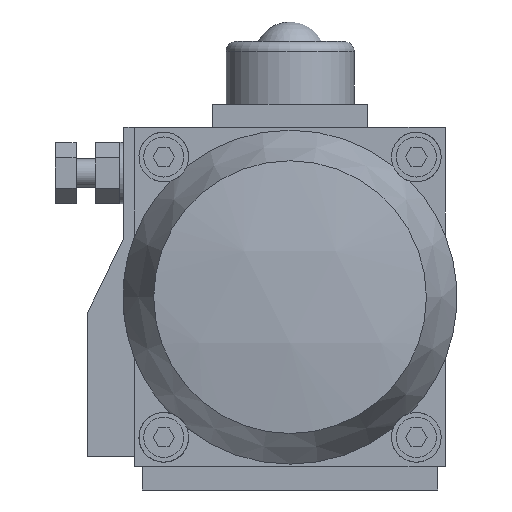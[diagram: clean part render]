
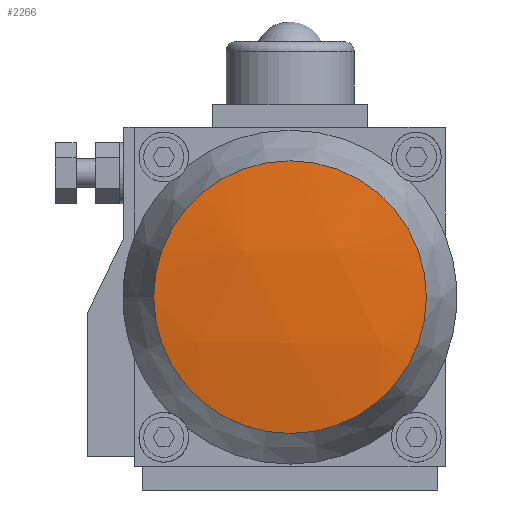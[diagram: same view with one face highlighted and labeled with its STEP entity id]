
A CAD part, front view. The second image highlights one B-rep face of the part: STEP entity #2266.
In plain terms, the highlighted spherical face has radius 250.929 mm.
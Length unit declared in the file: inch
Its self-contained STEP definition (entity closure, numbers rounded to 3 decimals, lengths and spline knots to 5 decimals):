
#2250=CARTESIAN_POINT('',(1.86,0.92908,2.425));
#2251=DIRECTION('',(0.0,0.0,1.0));
#2252=DIRECTION('',(1.0,0.0,0.0));
#2253=AXIS2_PLACEMENT_3D('',#2250,#2251,#2252);
#2254=SPHERICAL_SURFACE('',#2253,9.87908);
#2255=CARTESIAN_POINT('',(0.145,-8.8,2.425));
#2256=VERTEX_POINT('',#2255);
#2257=CARTESIAN_POINT('',(1.86,-8.8,2.425));
#2258=DIRECTION('',(0.,1.0,0.0));
#2259=DIRECTION('',(-1.0,0.,0.0));
#2260=AXIS2_PLACEMENT_3D('',#2257,#2258,#2259);
#2261=CIRCLE('',#2260,1.715);
#2262=EDGE_CURVE('',#2256,#2256,#2261,.T.);
#2263=ORIENTED_EDGE('',*,*,#2262,.F.);
#2264=EDGE_LOOP('',(#2263));
#2265=FACE_OUTER_BOUND('',#2264,.T.);
#2266=ADVANCED_FACE('',(#2265),#2254,.T.);
